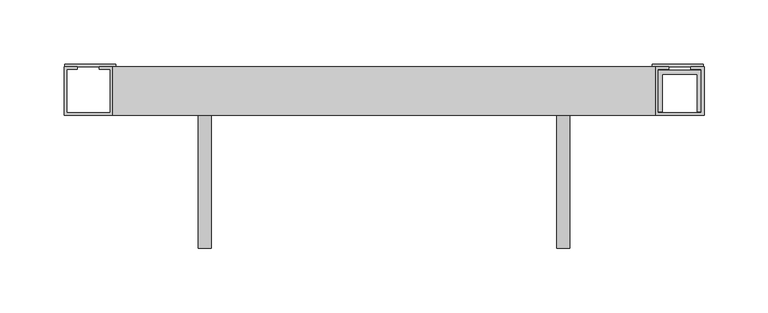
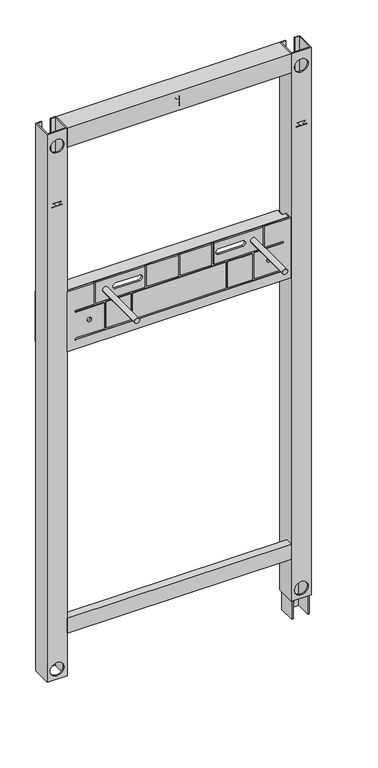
"""IFC4 building model written with IfcOpenShell, lengths in millimetres: flow terminal geometry, nextVIT Waschtisch-Element Wasserzählerstrecke WZ2 Rotguss : nextVIT Waschtisch-Element Wasserzählerstrecke WZ2 Rotguss."""

from ifc_helpers import new_model, si_unit, point, frame, frame_2d, origin, place, context, project, spatial, polyline, circle_curve, trimmed, segment, composite_curve, outline, extrude, source, transform, mapped, element, save
from ifc_brep_helpers import plane_surface, revolved_surface, advanced_brep


def flow_terminal_0e9184b4(model_context):
    return source(origin(), model_context, "Body", "SolidModel", [
        advanced_brep(
        [(244.6, -97.1, 363.5), (247.6, -97.1, 363.5), (247.6, -64.9, 363.5), (214.4, -64.9, 363.5), (214.4, -97.1, 363.5), (217.4, -97.1, 363.5), (217.4, -67.9, 363.5), (244.6, -67.9, 363.5), (244.6, -97.1, 13.5), (244.6, -67.9, 13.5), (217.4, -67.9, 13.5), (217.4, -97.1, 13.5), (214.4, -97.1, 13.5), (214.4, -64.9, 13.5), (247.6, -64.9, 13.5), (247.6, -97.1, 13.5), (226.5, -64.9, 23.6801435), (235.5, -64.9, 23.6801435), (226.0, -64.9, 37.7), (236.0, -64.9, 37.7), (236.0, -64.9, 335.5), (226.0, -64.9, 335.5), (235.5, -67.9, 23.6801435), (226.5, -67.9, 23.6801435), (226.0, -67.9, 335.5), (236.0, -67.9, 335.5), (236.0, -67.9, 37.7), (226.0, -67.9, 37.7)],
        [
            (0, 1),
            (1, 2),
            (2, 3),
            (3, 4),
            (4, 5),
            (5, 6),
            (6, 7),
            (7, 0),
            (8, 9),
            (9, 10),
            (10, 11),
            (11, 12),
            (12, 13),
            (13, 14),
            (14, 15),
            (15, 8),
            (3, 13),
            (12, 4),
            (2, 14),
            (16, 17, circle_curve(frame((231.0, -64.9, 23.6801435), z_axis=(0.0, -1.0, 0.0), x_axis=(1.0, 0.0, 0.0)), 4.5)),
            (17, 16, circle_curve(frame((231.0, -64.9, 23.6801435), z_axis=(0.0, -1.0, 0.0), x_axis=(1.0, 0.0, 0.0)), 4.5)),
            (18, 19, circle_curve(frame((231.0, -64.9, 37.7), z_axis=(0.0, -1.0, 0.0), x_axis=(1.0, 0.0, 0.0)), 5.0)),
            (19, 20),
            (20, 21, circle_curve(frame((231.0, -64.9, 335.5), z_axis=(0.0, -1.0, 0.0), x_axis=(1.0, 0.0, 0.0)), 5.0)),
            (21, 18),
            (1, 15),
            (0, 8),
            (7, 9),
            (6, 10),
            (22, 23, circle_curve(frame((231.0, -67.9, 23.6801435), z_axis=(0.0, 1.0, 0.0), x_axis=(1.0, 0.0, 0.0)), 4.5)),
            (23, 22, circle_curve(frame((231.0, -67.9, 23.6801435), z_axis=(0.0, 1.0, 0.0), x_axis=(1.0, 0.0, 0.0)), 4.5)),
            (24, 25, circle_curve(frame((231.0, -67.9, 335.5), z_axis=(0.0, 1.0, 0.0), x_axis=(1.0, 0.0, 0.0)), 5.0)),
            (25, 26),
            (26, 27, circle_curve(frame((231.0, -67.9, 37.7), z_axis=(0.0, 1.0, 0.0), x_axis=(1.0, 0.0, 0.0)), 5.0)),
            (27, 24),
            (5, 11),
            (23, 16),
            (17, 22),
            (27, 18),
            (21, 24),
            (20, 25),
            (19, 26),
        ],
        [
            plane_surface(frame((244.6, -97.1, 363.5), z_axis=(0.0, 0.0, 1.0), x_axis=(0.0, 1.0, 0.0))),
            plane_surface(frame((244.6, -97.1, 13.5), z_axis=(0.0, 0.0, -1.0), x_axis=(0.0, -1.0, 0.0))),
            plane_surface(frame((214.4, -97.1, 363.5), z_axis=(-1.0, 0.0, 0.0), x_axis=(0.0, 0.0, -1.0))),
            plane_surface(frame((214.4, -64.9, 363.5), z_axis=(0.0, 1.0, 0.0), x_axis=(0.0, 0.0, -1.0))),
            plane_surface(frame((247.6, -64.9, 363.5), z_axis=(1.0, 0.0, 0.0), x_axis=(0.0, 0.0, -1.0))),
            plane_surface(frame((247.6, -97.1, 363.5), z_axis=(0.0, -1.0, 0.0), x_axis=(0.0, 0.0, -1.0))),
            plane_surface(frame((244.6, -97.1, 363.5), z_axis=(-1.0, 0.0, 0.0), x_axis=(0.0, 0.0, -1.0))),
            plane_surface(frame((244.6, -67.9, 363.5), z_axis=(0.0, -1.0, 0.0), x_axis=(0.0, 0.0, -1.0))),
            plane_surface(frame((217.4, -67.9, 363.5), z_axis=(1.0, 0.0, 0.0), x_axis=(0.0, 0.0, -1.0))),
            plane_surface(frame((217.4, -97.1, 363.5), z_axis=(0.0, -1.0, 0.0), x_axis=(0.0, 0.0, -1.0))),
            revolved_surface(polyline([(235.5, -67.9, 23.6801435), (235.5, -64.9, 23.6801435)]), (231.0, -67.9, 23.6801435), (0.0, -1.0, 0.0)),
            plane_surface(frame((226.0, -67.9, 37.7), z_axis=(1.0, 0.0, 0.0), x_axis=(0.0, 1.0, 0.0))),
            revolved_surface(polyline([(236.0, -67.9, 335.5), (236.0, -64.9, 335.5)]), (231.0, -67.9, 335.5), (0.0, -1.0, 0.0)),
            plane_surface(frame((236.0, -67.9, 335.5), z_axis=(-1.0, 0.0, 0.0), x_axis=(0.0, 1.0, 0.0))),
            revolved_surface(polyline([(236.0, -67.9, 37.7), (236.0, -64.9, 37.7)]), (231.0, -67.9, 37.7), (0.0, -1.0, 0.0)),
        ],
        [
            (0, [[1, 2, 3, 4, 5, 6, 7, 8]]),
            (1, [[9, 10, 11, 12, 13, 14, 15, 16]]),
            (2, [[17, -13, 18, -4]]),
            (3, [[19, -14, -17, -3], [20, 21], [22, 23, 24, 25]]),
            (4, [[26, -15, -19, -2]]),
            (5, [[27, -16, -26, -1]]),
            (6, [[28, -9, -27, -8]]),
            (7, [[29, -10, -28, -7], [30, 31], [32, 33, 34, 35]]),
            (8, [[36, -11, -29, -6]]),
            (9, [[-18, -12, -36, -5]]),
            (10, [[-31, 37, -21, 38]]),
            (10, [[-20, -37, -30, -38]]),
            (11, [[-35, 39, -25, 40]]),
            (12, [[-24, 41, -32, -40]]),
            (13, [[-23, 42, -33, -41]]),
            (14, [[-34, -42, -22, -39]]),
        ],
    ),
        extrude(outline(polyline([(-98.0, 1145.5), (-98.0, 1109.5), (-100.0, 1109.5), (-100.0, 1147.5), (-62.0, 1147.5), (-62.0, 1145.5), (-98.0, 1145.5)])), frame((-212.0, 0.0, 0.0), z_axis=(1.0, 0.0, 0.0), x_axis=(0.0, 1.0, 0.0)), (0.0, 0.0, 1.0), 424.0),
        extrude(outline(polyline([(998.0, -221.0), (998.8, -221.0), (998.8, -230.2), (1005.5, -223.5), (1005.5, -238.5), (998.8, -231.8), (998.8, -240.9917762), (998.0, -240.9917762), (998.0, -221.0)])), frame((0.0, -100.0390625, 0.0), z_axis=(0.0, 1.0, 0.0), x_axis=(0.0, 0.0, 1.0)), (0.0, 0.0, 1.0), 0.8),
        extrude(outline(polyline([(998.0, 241.0), (998.8, 241.0), (998.8, 231.8), (1005.5, 238.5), (1005.5, 223.5), (998.8, 230.2), (998.8, 221.0082238), (998.0, 221.0082238), (998.0, 241.0)])), frame((0.0, -100.0390625, 0.0), z_axis=(0.0, 1.0, 0.0), x_axis=(0.0, 0.0, 1.0)), (0.0, 0.0, 1.0), 0.8),
        extrude(outline(polyline([(1127.6958881, 0.4), (1120.9958881, 7.1), (1135.9958881, 7.1), (1129.2958881, 0.4), (1138.4958881, 0.4), (1138.4958881, -0.4), (1129.2958881, -0.4), (1135.9958881, -7.1), (1120.9958881, -7.1), (1127.6958881, -0.4), (1118.5041119, -0.4), (1118.5041119, 0.4), (1127.6958881, 0.4)])), frame((0.0, -100.0390625, 0.0), z_axis=(0.0, 1.0, 0.0), x_axis=(0.0, 0.0, 1.0)), (0.0, 0.0, 1.0), 0.8),
        extrude(outline(polyline([(-100.0, 166.5), (-85.0, 166.5), (-85.0, 159.5), (-86.5, 159.5), (-86.5, 165.0), (-98.5, 165.0), (-98.5, 138.0), (-86.5, 138.0), (-86.5, 143.5), (-85.0, 143.5), (-85.0, 136.5), (-100.0, 136.5), (-100.0, 166.5)])), frame((-212.0, 0.0, 0.0), z_axis=(1.0, 0.0, 0.0), x_axis=(0.0, 1.0, 0.0)), (0.0, 0.0, 1.0), 424.0),
        extrude(outline(polyline([(202.6185808, -75.0), (202.6185808, -85.0), (209.5, -85.0), (209.5, -96.5), (-209.5, -96.5), (-209.5, -85.0), (-202.6185808, -85.0), (-202.6185808, -75.0), (202.6185808, -75.0)])), frame((0.0, 0.0, 700.0), z_axis=(0.0, 0.0, 1.0), x_axis=(1.0, 0.0, 0.0)), (0.0, 0.0, 1.0), 2.0),
        extrude(outline(polyline([(209.5, -96.5), (-209.5, -96.5), (-209.5, -85.0), (-202.9917369, -85.0), (-202.9917369, -70.0), (202.9917369, -70.0), (202.9917369, -85.0), (209.5, -85.0), (209.5, -96.5)])), frame((0.0, 0.0, 818.0), z_axis=(0.0, 0.0, 1.0), x_axis=(1.0, 0.0, 0.0)), (0.0, 0.0, 1.0), 2.0),
        extrude(outline(composite_curve([segment(trimmed(circle_curve(frame_2d((800.0, -140.0)), 5.0), [point((800.0, -135.0))], [point((800.0, -145.0))], False, "CARTESIAN"), True, "CONTINUOUS"), segment(trimmed(circle_curve(frame_2d((800.0, -140.0)), 5.0), [point((800.0, -145.0))], [point((800.0, -135.0))], False, "CARTESIAN"), True, "CONTINUOUS")], self_intersect=False)), frame((0.0, -204.0, 0.0), z_axis=(0.0, 1.0, 0.0), x_axis=(0.0, 0.0, 1.0)), (0.0, 0.0, 1.0), 140.0),
        extrude(outline(composite_curve([segment(trimmed(circle_curve(frame_2d((800.0, 140.0)), 5.0), [point((800.0, 145.0))], [point((800.0, 135.0))], False, "CARTESIAN"), True, "CONTINUOUS"), segment(trimmed(circle_curve(frame_2d((800.0, 140.0)), 5.0), [point((800.0, 135.0))], [point((800.0, 145.0))], False, "CARTESIAN"), True, "CONTINUOUS")], self_intersect=False)), frame((0.0, -204.0, 0.0), z_axis=(0.0, 1.0, 0.0), x_axis=(0.0, 0.0, 1.0)), (0.0, 0.0, 1.0), 140.0),
        advanced_brep(
        [(209.5, -96.5, 820.0), (-209.5, -96.5, 820.0), (-209.5, -85.0, 820.0), (-211.5, -85.0, 820.0), (-211.5, -100.0, 820.0), (-162.0, -100.0, 820.0), (-162.0, -98.5, 820.0), (-158.0, -98.5, 820.0), (-158.0, -100.0, 820.0), (-65.0, -100.0, 820.0), (-65.0, -98.5, 820.0), (-61.0, -98.5, 820.0), (-61.0, -100.0, 820.0), (-2.0, -100.0, 820.0), (-2.0, -98.5, 820.0), (2.0, -98.5, 820.0), (2.0, -100.0, 820.0), (61.0, -100.0, 820.0), (61.0, -98.5, 820.0), (65.0, -98.5, 820.0), (65.0, -100.0, 820.0), (158.0, -100.0, 820.0), (158.0, -98.5, 820.0), (162.0, -98.5, 820.0), (162.0, -100.0, 820.0), (211.5, -100.0, 820.0), (211.5, -85.0, 820.0), (209.5, -85.0, 820.0), (211.5, -100.0, 700.0), (-211.5, -100.0, 700.0), (-211.5, -85.0, 700.0), (-209.5, -85.0, 700.0), (-209.5, -96.5, 700.0), (209.5, -96.5, 700.0), (209.5, -85.0, 700.0), (211.5, -85.0, 700.0), (209.5, -85.0, 810.0), (209.5, -60.0, 810.0), (209.5, -60.0, 710.0), (209.5, -85.0, 710.0), (-166.0, -96.5, 750.0), (-174.0, -96.5, 750.0), (-135.75, -96.5, 800.0), (-144.25, -96.5, 800.0), (-120.0, -96.5, 805.5), (-120.0, -96.5, 794.5), (-75.0, -96.5, 794.5), (-75.0, -96.5, 805.5), (75.0, -96.5, 805.5), (75.0, -96.5, 794.5), (120.0, -96.5, 794.5), (120.0, -96.5, 805.5), (144.25, -96.5, 800.0), (135.75, -96.5, 800.0), (174.0, -96.5, 750.0), (166.0, -96.5, 750.0), (-209.5, -85.0, 710.0), (-209.5, -60.0, 710.0), (-209.5, -60.0, 810.0), (-209.5, -85.0, 810.0), (-249.5, -60.0, 810.0), (-249.5, -60.0, 710.0), (-226.5, -60.0, 745.0), (-235.5, -60.0, 745.0), (-249.5, -62.0, 810.0), (-249.5, -62.0, 710.0), (-211.5, -62.0, 810.0), (-211.5, -62.0, 710.0), (-235.5, -62.0, 745.0), (-226.5, -62.0, 745.0), (-211.5, -85.0, 810.0), (-211.5, -85.0, 710.0), (-158.0, -100.0, 778.0), (-65.0, -100.0, 778.0), (-144.25, -100.0, 800.0), (-135.75, -100.0, 800.0), (-120.0, -100.0, 794.5), (-120.0, -100.0, 805.5), (-75.0, -100.0, 805.5), (-75.0, -100.0, 794.5), (-61.0, -100.0, 778.0), (-2.0, -100.0, 778.0), (2.0, -100.0, 778.0), (61.0, -100.0, 778.0), (65.0, -100.0, 778.0), (158.0, -100.0, 778.0), (75.0, -100.0, 794.5), (75.0, -100.0, 805.5), (120.0, -100.0, 805.5), (120.0, -100.0, 794.5), (135.75, -100.0, 800.0), (144.25, -100.0, 800.0), (162.0, -100.0, 778.0), (196.0, -100.0, 778.0), (196.0, -100.0, 774.0), (142.0, -100.0, 774.0), (142.0, -100.0, 722.0), (196.0, -100.0, 722.0), (196.0, -100.0, 718.0), (-196.0, -100.0, 718.0), (-196.0, -100.0, 722.0), (-142.0, -100.0, 722.0), (-142.0, -100.0, 774.0), (-196.0, -100.0, 774.0), (-196.0, -100.0, 778.0), (-162.0, -100.0, 778.0), (-174.0, -100.0, 750.0), (-166.0, -100.0, 750.0), (166.0, -100.0, 750.0), (174.0, -100.0, 750.0), (-138.0039095, -100.0, 721.9957201), (-91.9961874, -100.0, 721.9957201), (-91.9961874, -100.0, 774.0041923), (-138.0039095, -100.0, 774.0041923), (-88.0041923, -100.0, 774.0), (-88.0041923, -100.0, 721.9960905), (88.0, -100.0, 721.9960905), (88.0, -100.0, 774.0), (92.0, -100.0, 721.9957201), (138.0038126, -100.0, 721.9957201), (138.0038126, -100.0, 774.0), (92.0, -100.0, 774.0), (211.5, -85.0, 710.0), (211.5, -62.0, 710.0), (211.5, -62.0, 810.0), (211.5, -85.0, 810.0), (249.5, -62.0, 810.0), (249.5, -62.0, 710.0), (226.5, -62.0, 745.0), (235.5, -62.0, 745.0), (249.5, -60.0, 810.0), (249.5, -60.0, 710.0), (235.5, -60.0, 745.0), (226.5, -60.0, 745.0), (-196.0, -98.5, 778.0), (-196.0, -98.5, 774.0), (-142.0, -98.5, 774.0), (-142.0, -98.5, 722.0), (-196.0, -98.5, 722.0), (-196.0, -98.5, 718.0), (196.0, -98.5, 718.0), (196.0, -98.5, 722.0), (142.0, -98.5, 722.0), (142.0, -98.5, 774.0), (196.0, -98.5, 774.0), (196.0, -98.5, 778.0), (162.0, -98.5, 778.0), (158.0, -98.5, 778.0), (65.0, -98.5, 778.0), (61.0, -98.5, 778.0), (2.0, -98.5, 778.0), (-2.0, -98.5, 778.0), (-61.0, -98.5, 778.0), (-65.0, -98.5, 778.0), (-158.0, -98.5, 778.0), (-162.0, -98.5, 778.0), (-138.0039095, -98.5, 721.9957201), (-138.0039095, -98.5, 774.0041923), (-91.9961874, -98.5, 774.0041923), (-91.9961874, -98.5, 721.9957201), (-88.0041923, -98.5, 774.0), (88.0, -98.5, 774.0), (88.0, -98.5, 721.9960905), (-88.0041923, -98.5, 721.9960905), (92.0, -98.5, 721.9957201), (92.0, -98.5, 774.0), (138.0038126, -98.5, 774.0), (138.0038126, -98.5, 721.9957201)],
        [
            (0, 1),
            (1, 2),
            (2, 3),
            (3, 4),
            (4, 5),
            (5, 6),
            (6, 7),
            (7, 8),
            (8, 9),
            (9, 10),
            (10, 11),
            (11, 12),
            (12, 13),
            (13, 14),
            (14, 15),
            (15, 16),
            (16, 17),
            (17, 18),
            (18, 19),
            (19, 20),
            (20, 21),
            (21, 22),
            (22, 23),
            (23, 24),
            (24, 25),
            (25, 26),
            (26, 27),
            (27, 0),
            (28, 29),
            (29, 30),
            (30, 31),
            (31, 32),
            (32, 33),
            (33, 34),
            (34, 35),
            (35, 28),
            (33, 0),
            (27, 36),
            (36, 37),
            (37, 38),
            (38, 39),
            (39, 34),
            (32, 1),
            (40, 41, circle_curve(frame((-170.0, -96.5, 750.0), z_axis=(0.0, -1.0, 0.0), x_axis=(1.0, 0.0, 0.0)), 4.0)),
            (41, 40, circle_curve(frame((-170.0, -96.5, 750.0), z_axis=(0.0, -1.0, 0.0), x_axis=(1.0, 0.0, 0.0)), 4.0)),
            (42, 43, circle_curve(frame((-140.0, -96.5, 800.0), z_axis=(0.0, -1.0, 0.0), x_axis=(1.0, 0.0, 0.0)), 4.25)),
            (43, 42, circle_curve(frame((-140.0, -96.5, 800.0), z_axis=(0.0, -1.0, 0.0), x_axis=(1.0, 0.0, 0.0)), 4.25)),
            (44, 45, circle_curve(frame((-120.0, -96.5, 800.0), z_axis=(0.0, -1.0, 0.0), x_axis=(1.0, 0.0, 0.0)), 5.5)),
            (45, 46),
            (46, 47, circle_curve(frame((-75.0, -96.5, 800.0), z_axis=(0.0, -1.0, 0.0), x_axis=(1.0, 0.0, 0.0)), 5.5)),
            (47, 44),
            (48, 49, circle_curve(frame((75.0, -96.5, 800.0), z_axis=(0.0, -1.0, 0.0), x_axis=(1.0, 0.0, 0.0)), 5.5)),
            (49, 50),
            (50, 51, circle_curve(frame((120.0, -96.5, 800.0), z_axis=(0.0, -1.0, 0.0), x_axis=(1.0, 0.0, 0.0)), 5.5)),
            (51, 48),
            (52, 53, circle_curve(frame((140.0, -96.5, 800.0), z_axis=(0.0, -1.0, 0.0), x_axis=(1.0, 0.0, 0.0)), 4.25)),
            (53, 52, circle_curve(frame((140.0, -96.5, 800.0), z_axis=(0.0, -1.0, 0.0), x_axis=(1.0, 0.0, 0.0)), 4.25)),
            (54, 55, circle_curve(frame((170.0, -96.5, 750.0), z_axis=(0.0, -1.0, 0.0), x_axis=(1.0, 0.0, 0.0)), 4.0)),
            (55, 54, circle_curve(frame((170.0, -96.5, 750.0), z_axis=(0.0, -1.0, 0.0), x_axis=(1.0, 0.0, 0.0)), 4.0)),
            (31, 56),
            (56, 57),
            (57, 58),
            (58, 59),
            (59, 2),
            (60, 58),
            (57, 61),
            (61, 60),
            (62, 63, circle_curve(frame((-231.0, -60.0, 745.0), z_axis=(0.0, -1.0, 0.0), x_axis=(1.0, 0.0, 0.0)), 4.5)),
            (63, 62, circle_curve(frame((-231.0, -60.0, 745.0), z_axis=(0.0, -1.0, 0.0), x_axis=(1.0, 0.0, 0.0)), 4.5)),
            (64, 60),
            (61, 65),
            (65, 64),
            (66, 64),
            (65, 67),
            (67, 66),
            (68, 69, circle_curve(frame((-231.0, -62.0, 745.0), z_axis=(0.0, 1.0, 0.0), x_axis=(1.0, 0.0, 0.0)), 4.5)),
            (69, 68, circle_curve(frame((-231.0, -62.0, 745.0), z_axis=(0.0, 1.0, 0.0), x_axis=(1.0, 0.0, 0.0)), 4.5)),
            (29, 4),
            (3, 70),
            (70, 66),
            (67, 71),
            (71, 30),
            (8, 72),
            (72, 73),
            (73, 9),
            (74, 75, circle_curve(frame((-140.0, -100.0, 800.0), z_axis=(0.0, 1.0, 0.0), x_axis=(1.0, 0.0, 0.0)), 4.25)),
            (75, 74, circle_curve(frame((-140.0, -100.0, 800.0), z_axis=(0.0, 1.0, 0.0), x_axis=(1.0, 0.0, 0.0)), 4.25)),
            (76, 77, circle_curve(frame((-120.0, -100.0, 800.0), z_axis=(0.0, 1.0, 0.0), x_axis=(1.0, 0.0, 0.0)), 5.5)),
            (77, 78),
            (78, 79, circle_curve(frame((-75.0, -100.0, 800.0), z_axis=(0.0, 1.0, 0.0), x_axis=(1.0, 0.0, 0.0)), 5.5)),
            (79, 76),
            (12, 80),
            (80, 81),
            (81, 13),
            (16, 82),
            (82, 83),
            (83, 17),
            (20, 84),
            (84, 85),
            (85, 21),
            (86, 87, circle_curve(frame((75.0, -100.0, 800.0), z_axis=(0.0, 1.0, 0.0), x_axis=(1.0, 0.0, 0.0)), 5.5)),
            (87, 88),
            (88, 89, circle_curve(frame((120.0, -100.0, 800.0), z_axis=(0.0, 1.0, 0.0), x_axis=(1.0, 0.0, 0.0)), 5.5)),
            (89, 86),
            (90, 91, circle_curve(frame((140.0, -100.0, 800.0), z_axis=(0.0, 1.0, 0.0), x_axis=(1.0, 0.0, 0.0)), 4.25)),
            (91, 90, circle_curve(frame((140.0, -100.0, 800.0), z_axis=(0.0, 1.0, 0.0), x_axis=(1.0, 0.0, 0.0)), 4.25)),
            (28, 25),
            (24, 92),
            (92, 93),
            (93, 94, circle_curve(frame((196.0, -100.0, 776.0), z_axis=(0.0, 1.0, 0.0), x_axis=(1.0, 0.0, 0.0)), 2.0)),
            (94, 95),
            (95, 96),
            (96, 97),
            (97, 98, circle_curve(frame((196.0, -100.0, 720.0), z_axis=(0.0, 1.0, 0.0), x_axis=(1.0, 0.0, 0.0)), 2.0)),
            (98, 99),
            (99, 100, circle_curve(frame((-196.0, -100.0, 720.0), z_axis=(0.0, 1.0, 0.0), x_axis=(1.0, 0.0, 0.0)), 2.0)),
            (100, 101),
            (101, 102),
            (102, 103),
            (103, 104, circle_curve(frame((-196.0, -100.0, 776.0), z_axis=(0.0, 1.0, 0.0), x_axis=(1.0, 0.0, 0.0)), 2.0)),
            (104, 105),
            (105, 5),
            (106, 107, circle_curve(frame((-170.0, -100.0, 750.0), z_axis=(0.0, 1.0, 0.0), x_axis=(1.0, 0.0, 0.0)), 4.0)),
            (107, 106, circle_curve(frame((-170.0, -100.0, 750.0), z_axis=(0.0, 1.0, 0.0), x_axis=(1.0, 0.0, 0.0)), 4.0)),
            (108, 109, circle_curve(frame((170.0, -100.0, 750.0), z_axis=(0.0, 1.0, 0.0), x_axis=(1.0, 0.0, 0.0)), 4.0)),
            (109, 108, circle_curve(frame((170.0, -100.0, 750.0), z_axis=(0.0, 1.0, 0.0), x_axis=(1.0, 0.0, 0.0)), 4.0)),
            (110, 111),
            (111, 112),
            (112, 113),
            (113, 110),
            (114, 115),
            (115, 116),
            (116, 117),
            (117, 114),
            (118, 119),
            (119, 120),
            (120, 121),
            (121, 118),
            (35, 122),
            (122, 123),
            (123, 124),
            (124, 125),
            (125, 26),
            (126, 124),
            (123, 127),
            (127, 126),
            (128, 129, circle_curve(frame((231.0, -62.0, 745.0), z_axis=(0.0, 1.0, 0.0), x_axis=(1.0, 0.0, 0.0)), 4.5)),
            (129, 128, circle_curve(frame((231.0, -62.0, 745.0), z_axis=(0.0, 1.0, 0.0), x_axis=(1.0, 0.0, 0.0)), 4.5)),
            (130, 126),
            (127, 131),
            (131, 130),
            (37, 130),
            (131, 38),
            (132, 133, circle_curve(frame((231.0, -60.0, 745.0), z_axis=(0.0, -1.0, 0.0), x_axis=(1.0, 0.0, 0.0)), 4.5)),
            (133, 132, circle_curve(frame((231.0, -60.0, 745.0), z_axis=(0.0, -1.0, 0.0), x_axis=(1.0, 0.0, 0.0)), 4.5)),
            (68, 63),
            (62, 69),
            (106, 41),
            (40, 107),
            (74, 43),
            (42, 75),
            (76, 45),
            (44, 77),
            (47, 78),
            (46, 79),
            (86, 49),
            (48, 87),
            (51, 88),
            (50, 89),
            (90, 53),
            (52, 91),
            (108, 55),
            (54, 109),
            (128, 133),
            (132, 129),
            (36, 125),
            (70, 59),
            (122, 39),
            (56, 71),
            (134, 135, circle_curve(frame((-196.0, -98.5, 776.0), z_axis=(0.0, -1.0, 0.0), x_axis=(1.0, 0.0, 0.0)), 2.0)),
            (135, 136),
            (136, 137),
            (137, 138),
            (138, 139, circle_curve(frame((-196.0, -98.5, 720.0), z_axis=(0.0, -1.0, 0.0), x_axis=(1.0, 0.0, 0.0)), 2.0)),
            (139, 140),
            (140, 141, circle_curve(frame((196.0, -98.5, 720.0), z_axis=(0.0, -1.0, 0.0), x_axis=(1.0, 0.0, 0.0)), 2.0)),
            (141, 142),
            (142, 143),
            (143, 144),
            (144, 145, circle_curve(frame((196.0, -98.5, 776.0), z_axis=(0.0, -1.0, 0.0), x_axis=(1.0, 0.0, 0.0)), 2.0)),
            (145, 146),
            (146, 23),
            (22, 147),
            (147, 148),
            (148, 19),
            (18, 149),
            (149, 150),
            (150, 15),
            (14, 151),
            (151, 152),
            (152, 11),
            (10, 153),
            (153, 154),
            (154, 7),
            (6, 155),
            (155, 134),
            (156, 157),
            (157, 158),
            (158, 159),
            (159, 156),
            (160, 161),
            (161, 162),
            (162, 163),
            (163, 160),
            (164, 165),
            (165, 166),
            (166, 167),
            (167, 164),
            (155, 105),
            (104, 134),
            (154, 72),
            (153, 73),
            (152, 80),
            (151, 81),
            (150, 82),
            (149, 83),
            (148, 84),
            (147, 85),
            (146, 92),
            (145, 93),
            (144, 94),
            (143, 95),
            (142, 96),
            (141, 97),
            (140, 98),
            (139, 99),
            (138, 100),
            (137, 101),
            (136, 102),
            (135, 103),
            (159, 111),
            (110, 156),
            (158, 112),
            (157, 113),
            (163, 115),
            (114, 160),
            (162, 116),
            (161, 117),
            (167, 119),
            (118, 164),
            (166, 120),
            (165, 121),
        ],
        [
            plane_surface(frame((209.5, -96.5, 820.0), z_axis=(0.0, 0.0, 1.0), x_axis=(0.0, -1.0, 0.0))),
            plane_surface(frame((209.5, -96.5, 700.0), z_axis=(0.0, 0.0, -1.0), x_axis=(0.0, 1.0, 0.0))),
            plane_surface(frame((209.5, -60.0, 820.0), z_axis=(-1.0, 0.0, 0.0), x_axis=(0.0, 0.0, -1.0))),
            plane_surface(frame((209.5, -96.5, 820.0), z_axis=(0.0, 1.0, 0.0), x_axis=(0.0, 0.0, -1.0))),
            plane_surface(frame((-209.5, -96.5, 820.0), z_axis=(1.0, 0.0, 0.0), x_axis=(0.0, 0.0, -1.0))),
            plane_surface(frame((-209.5, -60.0, 820.0), z_axis=(0.0, 1.0, 0.0), x_axis=(0.0, 0.0, -1.0))),
            plane_surface(frame((-249.5, -60.0, 820.0), z_axis=(-1.0, 0.0, 0.0), x_axis=(0.0, 0.0, -1.0))),
            plane_surface(frame((-249.5, -62.0, 820.0), z_axis=(0.0, -1.0, 0.0), x_axis=(0.0, 0.0, -1.0))),
            plane_surface(frame((-211.5, -62.0, 820.0), z_axis=(-1.0, 0.0, 0.0), x_axis=(0.0, 0.0, -1.0))),
            plane_surface(frame((-211.5, -100.0, 820.0), z_axis=(0.0, -1.0, 0.0), x_axis=(0.0, 0.0, -1.0))),
            plane_surface(frame((211.5, -100.0, 820.0), z_axis=(1.0, 0.0, 0.0), x_axis=(0.0, 0.0, -1.0))),
            plane_surface(frame((211.5, -62.0, 820.0), z_axis=(0.0, -1.0, 0.0), x_axis=(0.0, 0.0, -1.0))),
            plane_surface(frame((249.5, -62.0, 820.0), z_axis=(1.0, 0.0, 0.0), x_axis=(0.0, 0.0, -1.0))),
            plane_surface(frame((249.5, -60.0, 820.0), z_axis=(0.0, 1.0, 0.0), x_axis=(0.0, 0.0, -1.0))),
            revolved_surface(polyline([(-226.5, -60.0, 745.0), (-226.5, -62.0, 745.0)]), (-231.0, -60.0, 745.0), (0.0, 1.0, 0.0)),
            revolved_surface(polyline([(-166.0, -96.5, 750.0), (-166.0, -100.0, 750.0)]), (-170.0, -60.0, 750.0), (0.0, 1.0, 0.0)),
            revolved_surface(polyline([(-135.75, -96.5, 800.0), (-135.75, -100.0, 800.0)]), (-140.0, -60.0, 800.0), (0.0, 1.0, 0.0)),
            revolved_surface(polyline([(-114.5, -96.5, 800.0), (-114.5, -100.0, 800.0)]), (-120.0, -60.0, 800.0), (0.0, 1.0, 0.0)),
            plane_surface(frame((-120.0, -60.0, 805.5), z_axis=(0.0, 0.0, -1.0), x_axis=(0.0, -1.0, 0.0))),
            revolved_surface(polyline([(-69.5, -96.5, 800.0), (-69.5, -100.0, 800.0)]), (-75.0, -60.0, 800.0), (0.0, 1.0, 0.0)),
            plane_surface(frame((-75.0, -60.0, 794.5), z_axis=(0.0, 0.0, 1.0), x_axis=(0.0, -1.0, 0.0))),
            revolved_surface(polyline([(80.5, -96.5, 800.0), (80.5, -100.0, 800.0)]), (75.0, -60.0, 800.0), (0.0, 1.0, 0.0)),
            plane_surface(frame((75.0, -60.0, 805.5), z_axis=(0.0, 0.0, -1.0), x_axis=(0.0, -1.0, 0.0))),
            revolved_surface(polyline([(125.5, -96.5, 800.0), (125.5, -100.0, 800.0)]), (120.0, -60.0, 800.0), (0.0, 1.0, 0.0)),
            plane_surface(frame((120.0, -60.0, 794.5), z_axis=(0.0, 0.0, 1.0), x_axis=(0.0, -1.0, 0.0))),
            revolved_surface(polyline([(144.25, -96.5, 800.0), (144.25, -100.0, 800.0)]), (140.0, -60.0, 800.0), (0.0, 1.0, 0.0)),
            revolved_surface(polyline([(174.0, -96.5, 750.0), (174.0, -100.0, 750.0)]), (170.0, -60.0, 750.0), (0.0, 1.0, 0.0)),
            revolved_surface(polyline([(235.5, -60.0, 745.0), (235.5, -62.0, 745.0)]), (231.0, -60.0, 745.0), (0.0, 1.0, 0.0)),
            plane_surface(frame((249.5, -85.0, 810.0), z_axis=(0.0, 0.0, 1.0), x_axis=(-1.0, 0.0, 0.0))),
            plane_surface(frame((209.5, -85.0, 820.0), z_axis=(0.0, 1.0, 0.0), x_axis=(0.0, 0.0, -1.0))),
            plane_surface(frame((-249.5, -85.0, 820.0), z_axis=(0.0, 1.0, 0.0), x_axis=(0.0, 0.0, -1.0))),
            plane_surface(frame((249.5, -85.0, 710.0), z_axis=(0.0, 0.0, -1.0), x_axis=(1.0, 0.0, 0.0))),
            plane_surface(frame((209.5, -85.0, 710.0), z_axis=(0.0, 1.0, 0.0), x_axis=(0.0, 0.0, -1.0))),
            plane_surface(frame((-249.5, -85.0, 710.0), z_axis=(0.0, 1.0, 0.0), x_axis=(0.0, 0.0, -1.0))),
            plane_surface(frame((0.0, -98.5, 800.0), z_axis=(0.0, -1.0, 0.0), x_axis=(0.0, 0.0, 1.0))),
            plane_surface(frame((-196.0, -98.5, 778.0), z_axis=(0.0, 0.0, -1.0), x_axis=(0.0, -1.0, 0.0))),
            plane_surface(frame((-162.0, -98.5, 778.0), z_axis=(1.0, 0.0, 0.0), x_axis=(0.0, -1.0, 0.0))),
            plane_surface(frame((-158.0, -98.5, 820.0), z_axis=(-1.0, 0.0, 0.0), x_axis=(0.0, -1.0, 0.0))),
            plane_surface(frame((-158.0, -98.5, 778.0), z_axis=(0.0, 0.0, -1.0), x_axis=(0.0, -1.0, 0.0))),
            plane_surface(frame((-65.0, -98.5, 778.0), z_axis=(1.0, 0.0, 0.0), x_axis=(0.0, -1.0, 0.0))),
            plane_surface(frame((-61.0, -98.5, 820.0), z_axis=(-1.0, 0.0, 0.0), x_axis=(0.0, -1.0, 0.0))),
            plane_surface(frame((-61.0, -98.5, 778.0), z_axis=(0.0, 0.0, -1.0), x_axis=(0.0, -1.0, 0.0))),
            plane_surface(frame((-2.0, -98.5, 778.0), z_axis=(1.0, 0.0, 0.0), x_axis=(0.0, -1.0, 0.0))),
            plane_surface(frame((2.0, -98.5, 820.0), z_axis=(-1.0, 0.0, 0.0), x_axis=(0.0, -1.0, 0.0))),
            plane_surface(frame((2.0, -98.5, 778.0), z_axis=(0.0, 0.0, -1.0), x_axis=(0.0, -1.0, 0.0))),
            plane_surface(frame((61.0, -98.5, 778.0), z_axis=(1.0, 0.0, 0.0), x_axis=(0.0, -1.0, 0.0))),
            plane_surface(frame((65.0, -98.5, 820.0), z_axis=(-1.0, 0.0, 0.0), x_axis=(0.0, -1.0, 0.0))),
            plane_surface(frame((65.0, -98.5, 778.0), z_axis=(0.0, 0.0, -1.0), x_axis=(0.0, -1.0, 0.0))),
            plane_surface(frame((158.0, -98.5, 778.0), z_axis=(1.0, 0.0, 0.0), x_axis=(0.0, -1.0, 0.0))),
            plane_surface(frame((162.0, -98.5, 820.0), z_axis=(-1.0, 0.0, 0.0), x_axis=(0.0, -1.0, 0.0))),
            plane_surface(frame((162.0, -98.5, 778.0), z_axis=(0.0, 0.0, -1.0), x_axis=(0.0, -1.0, 0.0))),
            revolved_surface(polyline([(198.0, -98.5, 776.0), (198.0, -100.0, 776.0)]), (196.0, -98.5, 776.0), (0.0, 1.0, 0.0)),
            plane_surface(frame((196.0, -98.5, 774.0), z_axis=(0.0, 0.0, 1.0), x_axis=(0.0, -1.0, 0.0))),
            plane_surface(frame((142.0, -98.5, 774.0), z_axis=(-1.0, 0.0, 0.0), x_axis=(0.0, -1.0, 0.0))),
            plane_surface(frame((142.0, -98.5, 722.0), z_axis=(0.0, 0.0, -1.0), x_axis=(0.0, -1.0, 0.0))),
            revolved_surface(polyline([(198.0, -98.5, 720.0), (198.0, -100.0, 720.0)]), (196.0, -98.5, 720.0), (0.0, 1.0, 0.0)),
            plane_surface(frame((196.0, -98.5, 718.0), z_axis=(0.0, 0.0, 1.0), x_axis=(0.0, -1.0, 0.0))),
            revolved_surface(polyline([(-194.0, -98.5, 720.0), (-194.0, -100.0, 720.0)]), (-196.0, -98.5, 720.0), (0.0, 1.0, 0.0)),
            plane_surface(frame((-196.0, -98.5, 722.0), z_axis=(0.0, 0.0, -1.0), x_axis=(0.0, -1.0, 0.0))),
            plane_surface(frame((-142.0, -98.5, 722.0), z_axis=(1.0, 0.0, 0.0), x_axis=(0.0, -1.0, 0.0))),
            plane_surface(frame((-142.0, -98.5, 774.0), z_axis=(0.0, 0.0, 1.0), x_axis=(0.0, -1.0, 0.0))),
            revolved_surface(polyline([(-194.0, -98.5, 776.0), (-194.0, -100.0, 776.0)]), (-196.0, -98.5, 776.0), (0.0, 1.0, 0.0)),
            plane_surface(frame((-138.0039095, -98.5, 721.9957201), z_axis=(0.0, 0.0, -1.0), x_axis=(0.0, -1.0, 0.0))),
            plane_surface(frame((-91.9961874, -98.5, 721.9957201), z_axis=(1.0, 0.0, 0.0), x_axis=(0.0, -1.0, 0.0))),
            plane_surface(frame((-91.9961874, -98.5, 774.0041923), z_axis=(0.0, 0.0, 1.0), x_axis=(0.0, -1.0, 0.0))),
            plane_surface(frame((-138.0039095, -98.5, 774.0041923), z_axis=(-1.0, 0.0, 0.0), x_axis=(0.0, -1.0, 0.0))),
            plane_surface(frame((-88.0041923, -98.5, 774.0), z_axis=(-1.0, 0.0, 0.0), x_axis=(0.0, -1.0, 0.0))),
            plane_surface(frame((-88.0041923, -98.5, 721.9960905), z_axis=(0.0, 0.0, -1.0), x_axis=(0.0, -1.0, 0.0))),
            plane_surface(frame((88.0, -98.5, 721.9960905), z_axis=(1.0, 0.0, 0.0), x_axis=(0.0, -1.0, 0.0))),
            plane_surface(frame((88.0, -98.5, 774.0), z_axis=(0.0, 0.0, 1.0), x_axis=(0.0, -1.0, 0.0))),
            plane_surface(frame((92.0, -98.5, 721.9957201), z_axis=(0.0, 0.0, -1.0), x_axis=(0.0, -1.0, 0.0))),
            plane_surface(frame((138.0038126, -98.5, 721.9957201), z_axis=(1.0, 0.0, 0.0), x_axis=(0.0, -1.0, 0.0))),
            plane_surface(frame((138.0038126, -98.5, 774.0), z_axis=(0.0, 0.0, 1.0), x_axis=(0.0, -1.0, 0.0))),
            plane_surface(frame((92.0, -98.5, 774.0), z_axis=(-1.0, 0.0, 0.0), x_axis=(0.0, -1.0, 0.0))),
        ],
        [
            (0, [[1, 2, 3, 4, 5, 6, 7, 8, 9, 10, 11, 12, 13, 14, 15, 16, 17, 18, 19, 20, 21, 22, 23, 24, 25, 26, 27, 28]]),
            (1, [[29, 30, 31, 32, 33, 34, 35, 36]]),
            (2, [[37, -28, 38, 39, 40, 41, 42, -34]]),
            (3, [[-1, -37, -33, 43], [44, 45], [46, 47], [48, 49, 50, 51], [52, 53, 54, 55], [56, 57], [58, 59]]),
            (4, [[-43, -32, 60, 61, 62, 63, 64, -2]]),
            (5, [[65, -62, 66, 67], [68, 69]]),
            (6, [[70, -67, 71, 72]]),
            (7, [[73, -72, 74, 75], [76, 77]]),
            (8, [[78, -4, 79, 80, -75, 81, 82, -30]]),
            (9, [[-9, 83, 84, 85], [86, 87], [88, 89, 90, 91]]),
            (9, [[-13, 92, 93, 94]]),
            (9, [[-17, 95, 96, 97]]),
            (9, [[-21, 98, 99, 100], [101, 102, 103, 104], [105, 106]]),
            (9, [[-29, 107, -25, 108, 109, 110, 111, 112, 113, 114, 115, 116, 117, 118, 119, 120, 121, 122, -5, -78], [123, 124], [125, 126]]),
            (9, [[127, 128, 129, 130]]),
            (9, [[131, 132, 133, 134]]),
            (9, [[135, 136, 137, 138]]),
            (10, [[-107, -36, 139, 140, 141, 142, 143, -26]]),
            (11, [[144, -141, 145, 146], [147, 148]]),
            (12, [[149, -146, 150, 151]]),
            (13, [[152, -151, 153, -40], [154, 155]]),
            (14, [[156, -68, 157, -76]]),
            (14, [[-156, -77, -157, -69]]),
            (15, [[158, -44, 159, -123]]),
            (15, [[-158, -124, -159, -45]]),
            (16, [[160, -46, 161, -86]]),
            (16, [[-160, -87, -161, -47]]),
            (17, [[162, -48, 163, -88]]),
            (18, [[-163, -51, 164, -89]]),
            (19, [[-164, -50, 165, -90]]),
            (20, [[-162, -91, -165, -49]]),
            (21, [[166, -52, 167, -101]]),
            (22, [[-167, -55, 168, -102]]),
            (23, [[-168, -54, 169, -103]]),
            (24, [[-166, -104, -169, -53]]),
            (25, [[170, -56, 171, -105]]),
            (25, [[-170, -106, -171, -57]]),
            (26, [[172, -58, 173, -125]]),
            (26, [[-172, -126, -173, -59]]),
            (27, [[174, -154, 175, -147]]),
            (27, [[-174, -148, -175, -155]]),
            (28, [[176, -142, -144, -149, -152, -39]]),
            (28, [[177, -63, -65, -70, -73, -80]]),
            (29, [[-176, -38, -27, -143]]),
            (30, [[-177, -79, -3, -64]]),
            (31, [[178, -41, -153, -150, -145, -140]]),
            (31, [[179, -81, -74, -71, -66, -61]]),
            (32, [[-178, -139, -35, -42]]),
            (33, [[-179, -60, -31, -82]]),
            (34, [[180, 181, 182, 183, 184, 185, 186, 187, 188, 189, 190, 191, 192, -23, 193, 194, 195, -19, 196, 197, 198, -15, 199, 200, 201, -11, 202, 203, 204, -7, 205, 206], [207, 208, 209, 210], [211, 212, 213, 214], [215, 216, 217, 218]]),
            (35, [[-206, 219, -121, 220]]),
            (36, [[-205, -6, -122, -219]]),
            (37, [[-204, 221, -83, -8]]),
            (38, [[-203, 222, -84, -221]]),
            (39, [[-202, -10, -85, -222]]),
            (40, [[-201, 223, -92, -12]]),
            (41, [[-200, 224, -93, -223]]),
            (42, [[-199, -14, -94, -224]]),
            (43, [[-198, 225, -95, -16]]),
            (44, [[-197, 226, -96, -225]]),
            (45, [[-196, -18, -97, -226]]),
            (46, [[-195, 227, -98, -20]]),
            (47, [[-194, 228, -99, -227]]),
            (48, [[-193, -22, -100, -228]]),
            (49, [[-192, 229, -108, -24]]),
            (50, [[-191, 230, -109, -229]]),
            (51, [[-190, 231, -110, -230]]),
            (52, [[-189, 232, -111, -231]]),
            (53, [[-188, 233, -112, -232]]),
            (54, [[-187, 234, -113, -233]]),
            (55, [[-186, 235, -114, -234]]),
            (56, [[-185, 236, -115, -235]]),
            (57, [[-184, 237, -116, -236]]),
            (58, [[-183, 238, -117, -237]]),
            (59, [[-182, 239, -118, -238]]),
            (60, [[-181, 240, -119, -239]]),
            (61, [[-180, -220, -120, -240]]),
            (62, [[-210, 241, -127, 242]]),
            (63, [[-209, 243, -128, -241]]),
            (64, [[-208, 244, -129, -243]]),
            (65, [[-207, -242, -130, -244]]),
            (66, [[-214, 245, -131, 246]]),
            (67, [[-213, 247, -132, -245]]),
            (68, [[-212, 248, -133, -247]]),
            (69, [[-211, -246, -134, -248]]),
            (70, [[-218, 249, -135, 250]]),
            (71, [[-217, 251, -136, -249]]),
            (72, [[-216, 252, -137, -251]]),
            (73, [[-215, -250, -138, -252]]),
        ],
    ),
        advanced_brep(
        [(-250.0, -62.0, 1148.0), (-250.0, -100.0, 1148.0), (-212.0, -100.0, 1148.0), (-212.0, -62.0, 1148.0), (-222.5, -62.0, 1148.0), (-222.5, -64.0, 1148.0), (-214.0, -64.0, 1148.0), (-214.0, -98.0, 1148.0), (-248.0, -98.0, 1148.0), (-248.0, -64.0, 1148.0), (-239.5, -64.0, 1148.0), (-239.5, -62.0, 1148.0), (-250.0, -62.0, 52.0), (-239.5, -62.0, 52.0), (-239.5, -64.0, 52.0), (-248.0, -64.0, 52.0), (-248.0, -98.0, 52.0), (-214.0, -98.0, 52.0), (-214.0, -64.0, 52.0), (-222.5, -64.0, 52.0), (-222.5, -62.0, 52.0), (-212.0, -62.0, 52.0), (-212.0, -100.0, 52.0), (-250.0, -100.0, 52.0), (-218.0, -100.0, 72.0), (-244.0, -100.0, 72.0), (-218.0, -100.0, 1118.0), (-244.0, -100.0, 1118.0), (-244.0, -98.0, 72.0), (-218.0, -98.0, 72.0), (-244.0, -98.0, 1118.0), (-218.0, -98.0, 1118.0)],
        [
            (0, 1),
            (1, 2),
            (2, 3),
            (3, 4),
            (4, 5),
            (5, 6),
            (6, 7),
            (7, 8),
            (8, 9),
            (9, 10),
            (10, 11),
            (11, 0),
            (12, 13),
            (13, 14),
            (14, 15),
            (15, 16),
            (16, 17),
            (17, 18),
            (18, 19),
            (19, 20),
            (20, 21),
            (21, 22),
            (22, 23),
            (23, 12),
            (0, 12),
            (23, 1),
            (22, 2),
            (24, 25, circle_curve(frame((-231.0, -100.0, 72.0), z_axis=(0.0, 1.0, 0.0), x_axis=(1.0, 0.0, 0.0)), 13.0)),
            (25, 24, circle_curve(frame((-231.0, -100.0, 72.0), z_axis=(0.0, 1.0, 0.0), x_axis=(1.0, 0.0, 0.0)), 13.0)),
            (26, 27, circle_curve(frame((-231.0, -100.0, 1118.0), z_axis=(0.0, 1.0, 0.0), x_axis=(1.0, 0.0, 0.0)), 13.0)),
            (27, 26, circle_curve(frame((-231.0, -100.0, 1118.0), z_axis=(0.0, 1.0, 0.0), x_axis=(1.0, 0.0, 0.0)), 13.0)),
            (21, 3),
            (20, 4),
            (19, 5),
            (18, 6),
            (17, 7),
            (16, 8),
            (28, 29, circle_curve(frame((-231.0, -98.0, 72.0), z_axis=(0.0, -1.0, 0.0), x_axis=(1.0, 0.0, 0.0)), 13.0)),
            (29, 28, circle_curve(frame((-231.0, -98.0, 72.0), z_axis=(0.0, -1.0, 0.0), x_axis=(1.0, 0.0, 0.0)), 13.0)),
            (30, 31, circle_curve(frame((-231.0, -98.0, 1118.0), z_axis=(0.0, -1.0, 0.0), x_axis=(1.0, 0.0, 0.0)), 13.0)),
            (31, 30, circle_curve(frame((-231.0, -98.0, 1118.0), z_axis=(0.0, -1.0, 0.0), x_axis=(1.0, 0.0, 0.0)), 13.0)),
            (15, 9),
            (14, 10),
            (13, 11),
            (28, 25),
            (24, 29),
            (30, 27),
            (26, 31),
        ],
        [
            plane_surface(frame((-250.0, -100.0, 1148.0), z_axis=(0.0, 0.0, 1.0), x_axis=(0.0, -1.0, 0.0))),
            plane_surface(frame((-250.0, -100.0, 52.0), z_axis=(0.0, 0.0, -1.0), x_axis=(0.0, 1.0, 0.0))),
            plane_surface(frame((-250.0, -62.0, 1148.0), z_axis=(-1.0, 0.0, 0.0), x_axis=(0.0, 0.0, -1.0))),
            plane_surface(frame((-250.0, -100.0, 1148.0), z_axis=(0.0, -1.0, 0.0), x_axis=(0.0, 0.0, -1.0))),
            plane_surface(frame((-212.0, -100.0, 1148.0), z_axis=(1.0, 0.0, 0.0), x_axis=(0.0, 0.0, -1.0))),
            plane_surface(frame((-212.0, -62.0, 1148.0), z_axis=(0.0, 1.0, 0.0), x_axis=(0.0, 0.0, -1.0))),
            plane_surface(frame((-222.5, -62.0, 1148.0), z_axis=(-1.0, 0.0, 0.0), x_axis=(0.0, 0.0, -1.0))),
            plane_surface(frame((-222.5, -64.0, 1148.0), z_axis=(0.0, -1.0, 0.0), x_axis=(0.0, 0.0, -1.0))),
            plane_surface(frame((-214.0, -64.0, 1148.0), z_axis=(-1.0, 0.0, 0.0), x_axis=(0.0, 0.0, -1.0))),
            plane_surface(frame((-214.0, -98.0, 1148.0), z_axis=(0.0, 1.0, 0.0), x_axis=(0.0, 0.0, -1.0))),
            plane_surface(frame((-248.0, -98.0, 1148.0), z_axis=(1.0, 0.0, 0.0), x_axis=(0.0, 0.0, -1.0))),
            plane_surface(frame((-248.0, -64.0, 1148.0), z_axis=(0.0, -1.0, 0.0), x_axis=(0.0, 0.0, -1.0))),
            plane_surface(frame((-239.5, -64.0, 1148.0), z_axis=(1.0, 0.0, 0.0), x_axis=(0.0, 0.0, -1.0))),
            plane_surface(frame((-239.5, -62.0, 1148.0), z_axis=(0.0, 1.0, 0.0), x_axis=(0.0, 0.0, -1.0))),
            revolved_surface(polyline([(-218.0, -98.0, 72.0), (-218.0, -100.0, 72.0)]), (-231.0, -98.0, 72.0), (0.0, 1.0, 0.0)),
            revolved_surface(polyline([(-218.0, -98.0, 1118.0), (-218.0, -100.0, 1118.0)]), (-231.0, -98.0, 1118.0), (0.0, 1.0, 0.0)),
        ],
        [
            (0, [[1, 2, 3, 4, 5, 6, 7, 8, 9, 10, 11, 12]]),
            (1, [[13, 14, 15, 16, 17, 18, 19, 20, 21, 22, 23, 24]]),
            (2, [[-1, 25, -24, 26]]),
            (3, [[-2, -26, -23, 27], [28, 29], [30, 31]]),
            (4, [[-3, -27, -22, 32]]),
            (5, [[-4, -32, -21, 33]]),
            (6, [[-5, -33, -20, 34]]),
            (7, [[-6, -34, -19, 35]]),
            (8, [[-7, -35, -18, 36]]),
            (9, [[-8, -36, -17, 37], [38, 39], [40, 41]]),
            (10, [[-9, -37, -16, 42]]),
            (11, [[-10, -42, -15, 43]]),
            (12, [[-11, -43, -14, 44]]),
            (13, [[-12, -44, -13, -25]]),
            (14, [[45, -28, 46, -38]]),
            (14, [[-45, -39, -46, -29]]),
            (15, [[47, -30, 48, -40]]),
            (15, [[-47, -41, -48, -31]]),
        ],
    ),
        advanced_brep(
        [(212.0, -62.0, 1148.0), (212.0, -100.0, 1148.0), (250.0, -100.0, 1148.0), (250.0, -62.0, 1148.0), (239.5, -62.0, 1148.0), (239.5, -64.0, 1148.0), (248.0, -64.0, 1148.0), (248.0, -98.0, 1148.0), (214.0, -98.0, 1148.0), (214.0, -64.0, 1148.0), (222.5, -64.0, 1148.0), (222.5, -62.0, 1148.0), (212.0, -62.0, 52.0), (222.5, -62.0, 52.0), (222.5, -64.0, 52.0), (214.0, -64.0, 52.0), (214.0, -98.0, 52.0), (248.0, -98.0, 52.0), (248.0, -64.0, 52.0), (239.5, -64.0, 52.0), (239.5, -62.0, 52.0), (250.0, -62.0, 52.0), (250.0, -100.0, 52.0), (212.0, -100.0, 52.0), (244.0, -100.0, 72.0), (218.0, -100.0, 72.0), (244.0, -100.0, 1118.0), (218.0, -100.0, 1118.0), (218.0, -98.0, 72.0), (244.0, -98.0, 72.0), (218.0, -98.0, 1118.0), (244.0, -98.0, 1118.0)],
        [
            (0, 1),
            (1, 2),
            (2, 3),
            (3, 4),
            (4, 5),
            (5, 6),
            (6, 7),
            (7, 8),
            (8, 9),
            (9, 10),
            (10, 11),
            (11, 0),
            (12, 13),
            (13, 14),
            (14, 15),
            (15, 16),
            (16, 17),
            (17, 18),
            (18, 19),
            (19, 20),
            (20, 21),
            (21, 22),
            (22, 23),
            (23, 12),
            (0, 12),
            (23, 1),
            (22, 2),
            (24, 25, circle_curve(frame((231.0, -100.0, 72.0), z_axis=(0.0, 1.0, 0.0), x_axis=(1.0, 0.0, 0.0)), 13.0)),
            (25, 24, circle_curve(frame((231.0, -100.0, 72.0), z_axis=(0.0, 1.0, 0.0), x_axis=(1.0, 0.0, 0.0)), 13.0)),
            (26, 27, circle_curve(frame((231.0, -100.0, 1118.0), z_axis=(0.0, 1.0, 0.0), x_axis=(1.0, 0.0, 0.0)), 13.0)),
            (27, 26, circle_curve(frame((231.0, -100.0, 1118.0), z_axis=(0.0, 1.0, 0.0), x_axis=(1.0, 0.0, 0.0)), 13.0)),
            (21, 3),
            (20, 4),
            (19, 5),
            (18, 6),
            (17, 7),
            (16, 8),
            (28, 29, circle_curve(frame((231.0, -98.0, 72.0), z_axis=(0.0, -1.0, 0.0), x_axis=(1.0, 0.0, 0.0)), 13.0)),
            (29, 28, circle_curve(frame((231.0, -98.0, 72.0), z_axis=(0.0, -1.0, 0.0), x_axis=(1.0, 0.0, 0.0)), 13.0)),
            (30, 31, circle_curve(frame((231.0, -98.0, 1118.0), z_axis=(0.0, -1.0, 0.0), x_axis=(1.0, 0.0, 0.0)), 13.0)),
            (31, 30, circle_curve(frame((231.0, -98.0, 1118.0), z_axis=(0.0, -1.0, 0.0), x_axis=(1.0, 0.0, 0.0)), 13.0)),
            (15, 9),
            (14, 10),
            (13, 11),
            (28, 25),
            (24, 29),
            (30, 27),
            (26, 31),
        ],
        [
            plane_surface(frame((212.0, -100.0, 1148.0), z_axis=(0.0, 0.0, 1.0), x_axis=(0.0, -1.0, 0.0))),
            plane_surface(frame((212.0, -100.0, 52.0), z_axis=(0.0, 0.0, -1.0), x_axis=(0.0, 1.0, 0.0))),
            plane_surface(frame((212.0, -62.0, 1148.0), z_axis=(-1.0, 0.0, 0.0), x_axis=(0.0, 0.0, -1.0))),
            plane_surface(frame((212.0, -100.0, 1148.0), z_axis=(0.0, -1.0, 0.0), x_axis=(0.0, 0.0, -1.0))),
            plane_surface(frame((250.0, -100.0, 1148.0), z_axis=(1.0, 0.0, 0.0), x_axis=(0.0, 0.0, -1.0))),
            plane_surface(frame((250.0, -62.0, 1148.0), z_axis=(0.0, 1.0, 0.0), x_axis=(0.0, 0.0, -1.0))),
            plane_surface(frame((239.5, -62.0, 1148.0), z_axis=(-1.0, 0.0, 0.0), x_axis=(0.0, 0.0, -1.0))),
            plane_surface(frame((239.5, -64.0, 1148.0), z_axis=(0.0, -1.0, 0.0), x_axis=(0.0, 0.0, -1.0))),
            plane_surface(frame((248.0, -64.0, 1148.0), z_axis=(-1.0, 0.0, 0.0), x_axis=(0.0, 0.0, -1.0))),
            plane_surface(frame((248.0, -98.0, 1148.0), z_axis=(0.0, 1.0, 0.0), x_axis=(0.0, 0.0, -1.0))),
            plane_surface(frame((214.0, -98.0, 1148.0), z_axis=(1.0, 0.0, 0.0), x_axis=(0.0, 0.0, -1.0))),
            plane_surface(frame((214.0, -64.0, 1148.0), z_axis=(0.0, -1.0, 0.0), x_axis=(0.0, 0.0, -1.0))),
            plane_surface(frame((222.5, -64.0, 1148.0), z_axis=(1.0, 0.0, 0.0), x_axis=(0.0, 0.0, -1.0))),
            plane_surface(frame((222.5, -62.0, 1148.0), z_axis=(0.0, 1.0, 0.0), x_axis=(0.0, 0.0, -1.0))),
            revolved_surface(polyline([(244.0, -98.0, 72.0), (244.0, -100.0, 72.0)]), (231.0, -98.0, 72.0), (0.0, 1.0, 0.0)),
            revolved_surface(polyline([(244.0, -98.0, 1118.0), (244.0, -100.0, 1118.0)]), (231.0, -98.0, 1118.0), (0.0, 1.0, 0.0)),
        ],
        [
            (0, [[1, 2, 3, 4, 5, 6, 7, 8, 9, 10, 11, 12]]),
            (1, [[13, 14, 15, 16, 17, 18, 19, 20, 21, 22, 23, 24]]),
            (2, [[-1, 25, -24, 26]]),
            (3, [[-2, -26, -23, 27], [28, 29], [30, 31]]),
            (4, [[-3, -27, -22, 32]]),
            (5, [[-4, -32, -21, 33]]),
            (6, [[-5, -33, -20, 34]]),
            (7, [[-6, -34, -19, 35]]),
            (8, [[-7, -35, -18, 36]]),
            (9, [[-8, -36, -17, 37], [38, 39], [40, 41]]),
            (10, [[-9, -37, -16, 42]]),
            (11, [[-10, -42, -15, 43]]),
            (12, [[-11, -43, -14, 44]]),
            (13, [[-12, -44, -13, -25]]),
            (14, [[45, -28, 46, -38]]),
            (14, [[-45, -39, -46, -29]]),
            (15, [[47, -30, 48, -40]]),
            (15, [[-47, -41, -48, -31]]),
        ],
    ),
    ])


if __name__ == "__main__":
    model = new_model("IFC4")
    model_context = context("Model", 3, world=origin())
    ifc_project = project(units=[si_unit("LENGTHUNIT", "METRE", prefix="MILLI")], contexts=[model_context])
    site = spatial("IfcSite", under=ifc_project)
    building = spatial("IfcBuilding", under=site)
    placement = place(None, origin())
    flow_terminal_shape = flow_terminal_0e9184b4(model_context)
    element("IfcFlowTerminal", 1, ObjectType="nextVIT Waschtisch-Element Wasserzählerstrecke WZ2 Rotguss : nextVIT Waschtisch-Element Wasserzählerstrecke WZ2 Rotguss", at=placement, inside=building, context=model_context, shape_type="MappedRepresentation", body=[
        mapped(flow_terminal_shape, transform((0.0, 0.0, 0.0), x_axis=(1.0, 0.0, 0.0), y_axis=(0.0, 1.0, 0.0), z_axis=(0.0, 0.0, 1.0))),
    ])
    save(model, "model.ifc")
